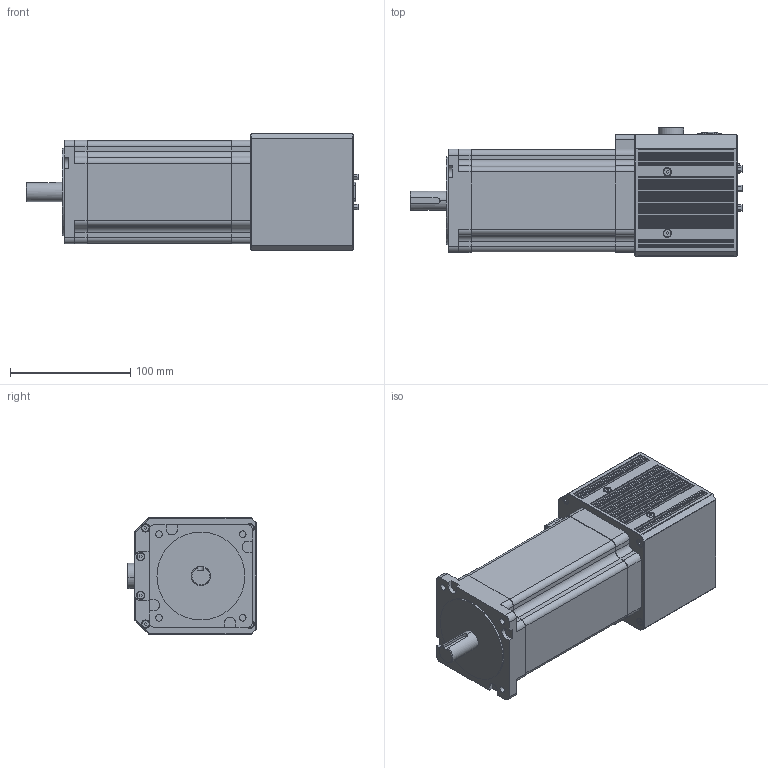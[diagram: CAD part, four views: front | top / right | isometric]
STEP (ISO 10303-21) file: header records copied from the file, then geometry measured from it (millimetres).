
FILE_DESCRIPTION (( 'STEP AP203' ), '1' );
FILE_NAME ('ÑÏØ10-34 äâèãàòåëü FL86STH156.STEP', '2010-05-04T08:25:47', ( 'User' ), ( 'Microsoft Corporation' ), 'SwSTEP 2.0', 'SolidWorks 2008', '' );
FILE_SCHEMA (( 'CONFIG_CONTROL_DESIGN' ));
Length unit declared in the file: millimetre
Products named in the file (1): ÑÏØ10-34 äâèãàòåëü FL86STH156
Bounding box: 275.75 x 106.73 x 97 mm (x, y, z)
Volume: 1234392.5 mm3; surface area: 189405.4 mm2
Topology: 3 solids, 23 shells, 1643 faces, 4072 edges, 2641 vertices
Faces by surface type: plane 753, cylinder 712, cone 164, torus 12, sphere 2
Entity records: 48964 total; most frequent: DIRECTION 8943, CARTESIAN_POINT 8359, ORIENTED_EDGE 8072, EDGE_CURVE 4036, AXIS2_PLACEMENT_3D 3267, VERTEX_POINT 2641, LINE 2409, VECTOR 2409
